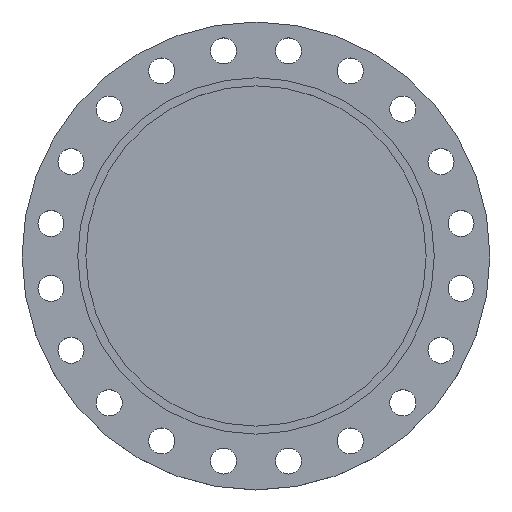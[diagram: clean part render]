
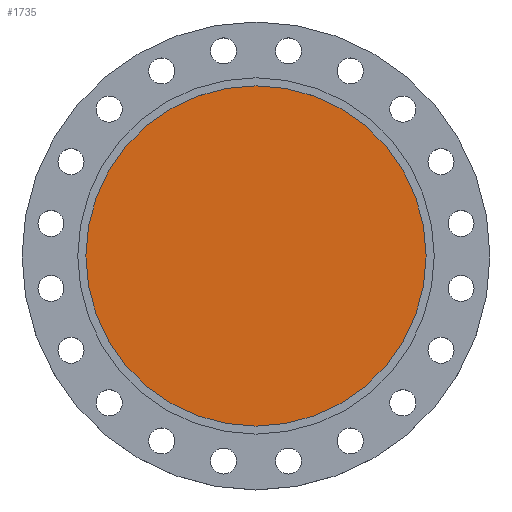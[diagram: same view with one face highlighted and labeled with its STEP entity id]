
A CAD part, top view. The second image highlights one B-rep face of the part: STEP entity #1735.
In plain terms, the highlighted planar face has unit normal (0, 0, 1).
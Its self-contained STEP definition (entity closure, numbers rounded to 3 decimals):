
#47 = CIRCLE ( 'NONE', #48, 274.5 ) ;
#48 = AXIS2_PLACEMENT_3D ( 'NONE', #856, #1505, #95 ) ;
#95 = DIRECTION ( 'NONE',  ( -1., 0., 0. ) ) ;
#97 = ORIENTED_EDGE ( 'NONE', *, *, #994, .F. ) ;
#266 = CARTESIAN_POINT ( 'NONE',  ( -274.5, 0., -5.5 ) ) ;
#290 = DIRECTION ( 'NONE',  ( 0., 0., -1. ) ) ;
#494 = DIRECTION ( 'NONE',  ( 0., 0., 1. ) ) ;
#528 = CARTESIAN_POINT ( 'NONE',  ( 274.5, 0., -5.5 ) ) ;
#659 = FACE_OUTER_BOUND ( 'NONE', #1591, .T. ) ;
#705 = VERTEX_POINT ( 'NONE', #266 ) ;
#716 = ORIENTED_EDGE ( 'NONE', *, *, #1136, .F. ) ;
#856 = CARTESIAN_POINT ( 'NONE',  ( 0., 0., -5.5 ) ) ;
#916 = DIRECTION ( 'NONE',  ( -1., 0., 0. ) ) ;
#994 = EDGE_CURVE ( 'NONE', #705, #1840, #47, .T. ) ;
#1118 = DIRECTION ( 'NONE',  ( 1., 0., 0. ) ) ;
#1136 = EDGE_CURVE ( 'NONE', #1840, #705, #1377, .T. ) ;
#1180 = AXIS2_PLACEMENT_3D ( 'NONE', #1829, #494, #1118 ) ;
#1290 = PLANE ( 'NONE',  #1180 ) ;
#1369 = AXIS2_PLACEMENT_3D ( 'NONE', #1674, #290, #916 ) ;
#1377 = CIRCLE ( 'NONE', #1369, 274.5 ) ;
#1505 = DIRECTION ( 'NONE',  ( 0., 0., -1. ) ) ;
#1591 = EDGE_LOOP ( 'NONE', ( #97, #716 ) ) ;
#1674 = CARTESIAN_POINT ( 'NONE',  ( 0., 0., -5.5 ) ) ;
#1735 = ADVANCED_FACE ( 'NONE', ( #659 ), #1290, .T. ) ;
#1829 = CARTESIAN_POINT ( 'NONE',  ( 274.5, 0., -5.5 ) ) ;
#1840 = VERTEX_POINT ( 'NONE', #528 ) ;
